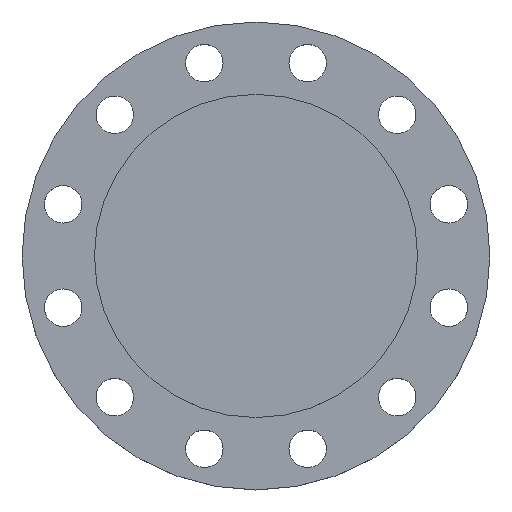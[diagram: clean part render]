
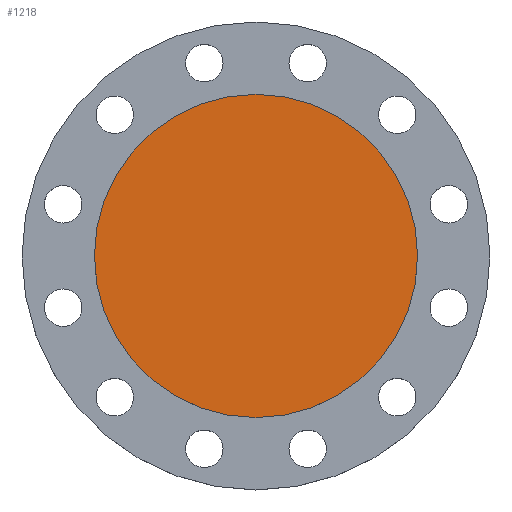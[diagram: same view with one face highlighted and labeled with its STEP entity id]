
A CAD part, top view. The second image highlights one B-rep face of the part: STEP entity #1218.
In plain terms, the highlighted planar face has unit normal (0, 0, 1).
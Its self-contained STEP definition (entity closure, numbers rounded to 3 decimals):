
#27 = AXIS2_PLACEMENT_3D ( 'NONE', #194, #192, #190 ) ;
#129 = CARTESIAN_POINT ( 'NONE',  ( -129.5, 0., 0. ) ) ;
#132 = EDGE_CURVE ( 'NONE', #1200, #1267, #758, .T. ) ;
#190 = DIRECTION ( 'NONE',  ( 1., 0., 0. ) ) ;
#192 = DIRECTION ( 'NONE',  ( 0., 0., 1. ) ) ;
#194 = CARTESIAN_POINT ( 'NONE',  ( 0., 0., 0. ) ) ;
#195 = PLANE ( 'NONE',  #27 ) ;
#197 = FACE_OUTER_BOUND ( 'NONE', #1232, .T. ) ;
#208 = CARTESIAN_POINT ( 'NONE',  ( 129.5, 0., 0. ) ) ;
#406 = DIRECTION ( 'NONE',  ( -1., 0., 0. ) ) ;
#407 = DIRECTION ( 'NONE',  ( 0., 0., -1. ) ) ;
#408 = CARTESIAN_POINT ( 'NONE',  ( 0., 0., 0. ) ) ;
#422 = CIRCLE ( 'NONE', #430, 129.5 ) ;
#430 = AXIS2_PLACEMENT_3D ( 'NONE', #408, #407, #406 ) ;
#758 = CIRCLE ( 'NONE', #761, 129.5 ) ;
#761 = AXIS2_PLACEMENT_3D ( 'NONE', #818, #817, #816 ) ;
#816 = DIRECTION ( 'NONE',  ( -1., 0., 0. ) ) ;
#817 = DIRECTION ( 'NONE',  ( 0., 0., -1. ) ) ;
#818 = CARTESIAN_POINT ( 'NONE',  ( 0., 0., 0. ) ) ;
#1014 = ORIENTED_EDGE ( 'NONE', *, *, #1015, .F. ) ;
#1015 = EDGE_CURVE ( 'NONE', #1267, #1200, #422, .T. ) ;
#1016 = ORIENTED_EDGE ( 'NONE', *, *, #132, .F. ) ;
#1200 = VERTEX_POINT ( 'NONE', #208 ) ;
#1218 = ADVANCED_FACE ( 'NONE', ( #197 ), #195, .T. ) ;
#1232 = EDGE_LOOP ( 'NONE', ( #1014, #1016 ) ) ;
#1267 = VERTEX_POINT ( 'NONE', #129 ) ;
